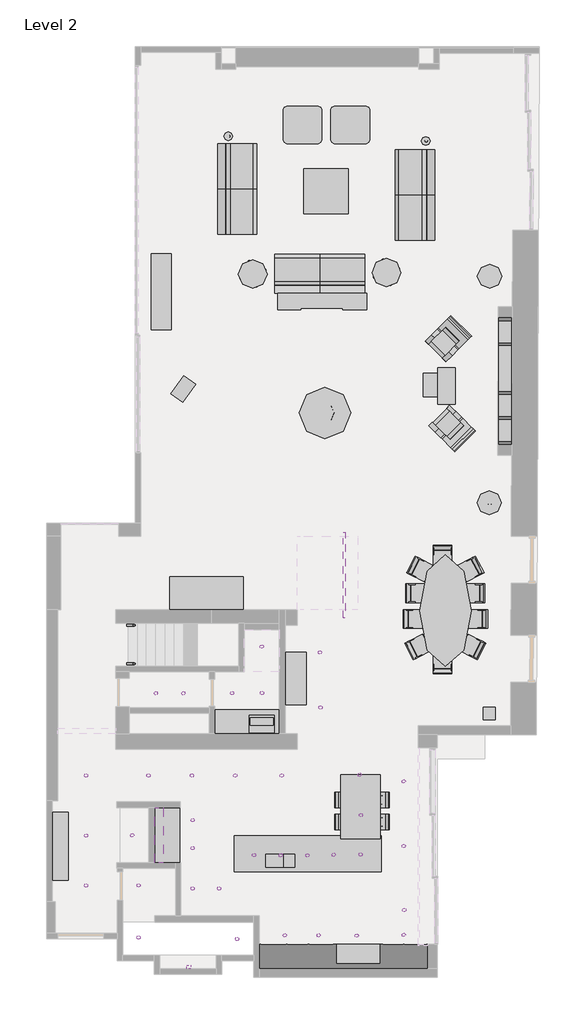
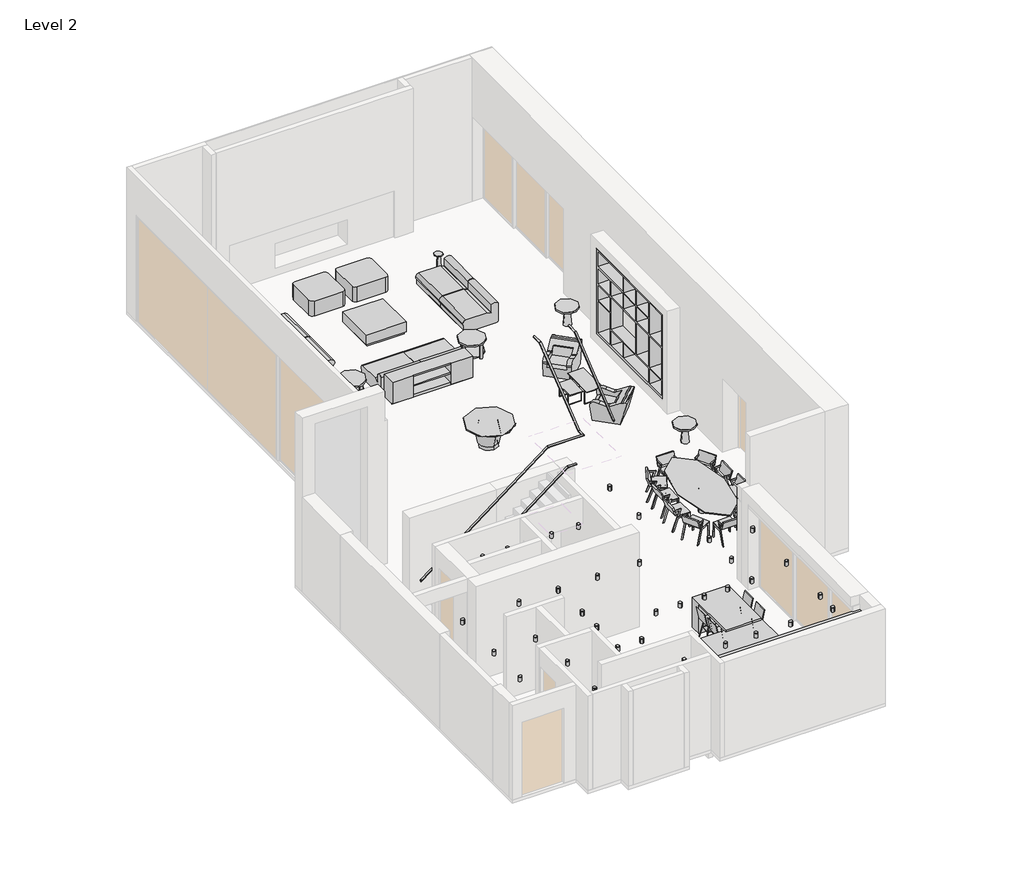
# One storey, part 3 of 3: 46 furniture elements, 37 light fixtures, 3 railings, 1 flow terminal.
"""IFC4 building model written with IfcOpenShell, lengths in millimetres."""

from ifc_helpers import new_model, si_unit, frame, origin, place, context, project, spatial, circle_curve, ellipse_curve, transform, mapped, element, save
from ifc_brep_helpers import plane_surface, cylinder_surface, advanced_brep
from components import sink_05_sink_05_83cbb9c2, cabinet_05_cabinet_05_b293a99e, cabinet_10_cabinet_10_716603c4, chair_1_chair_09_2_e52de524, chair_1_chair_09_2_60f36ab8, chair_1_chair_11_2_04599828, chair_1_chair_11_2_eeb455fd, chair_1_chair_12_2_918bc6ad, chair_4_chair_15_302be4ad, counter_counter_9db5bcc0, counter_02_counter_02_050aac90, furniture_08_furniture_08_d57b497b, furniture_09_furniture_09_7a5d8bf4, furniture_10_furniture_10_ddbf2e8e, furniture_11_furniture_11_f7b31755, furniture_15_furniture_15_eee239be, seating_03_seating_03_443b17d1, seating_04_seating_04_01323e9f, shelf_2_shelf_02_fa14b9a0, shelf_3_shelf_03_2a4fc885, table_1_table_15_2_961d6f65, table_25_table_09_f3128547, table_26_table_13_57efab66, table_27_table_14_e3094293, table_28_table_16_93e7e2a0, table_6_table_08_958b2a60, table_7_table_10_9ad1227e, table_9_table_11_e1c2e713, downlight_01_standard_4b9499b6, lighting_02_standard_022d6cc6, c1_2_437304bd, c1_2_bab826fe

model = new_model("IFC4")

# Units and contexts
model_context = context("Model", 3, world=origin())
ifc_project = project(units=[si_unit("LENGTHUNIT", "METRE", prefix="MILLI")], contexts=[model_context])

# Site, building, storey
site = spatial("IfcSite", under=ifc_project)
building = spatial("IfcBuilding", under=site)
storey = spatial("IfcBuildingStorey", under=building, Name="Level 2", Elevation=3400.0)

# Flow terminal
placement = place(None, origin())
sink_05_sink_05_shape = sink_05_sink_05_83cbb9c2(model_context)
element("IfcFlowTerminal", 1, ObjectType="Sink_05 : Sink_05", at=placement, inside=storey, context=model_context, shape_type="MappedRepresentation", body=[
    mapped(sink_05_sink_05_shape, transform((0.0, 0.0, 0.0), x_axis=(1.0, 0.0, 0.0), y_axis=(0.0, 1.0, 0.0), z_axis=(0.0, 0.0, 1.0))),
])

# Furniture
cabinet_05_cabinet_05_shape = cabinet_05_cabinet_05_b293a99e(model_context)
element("IfcFurniture", 2, ObjectType="Cabinet_05 : Cabinet_05", at=placement, inside=storey, context=model_context, shape_type="MappedRepresentation", body=[
    mapped(cabinet_05_cabinet_05_shape, transform((0.0, 0.0, 0.0), x_axis=(1.0, 0.0, 0.0), y_axis=(0.0, 1.0, 0.0), z_axis=(0.0, 0.0, 1.0))),
])
cabinet_10_cabinet_10_shape = cabinet_10_cabinet_10_716603c4(model_context)
element("IfcFurniture", 3, ObjectType="Cabinet_10 : Cabinet_10", at=placement, inside=storey, context=model_context, shape_type="MappedRepresentation", body=[
    mapped(cabinet_10_cabinet_10_shape, transform((0.0, 0.0, 0.0), x_axis=(1.0, 0.0, 0.0), y_axis=(0.0, 1.0, 0.0), z_axis=(0.0, 0.0, 1.0))),
])
chair_1_chair_09_2_shape = chair_1_chair_09_2_e52de524(model_context)
element("IfcFurniture", 4, ObjectType="Chair_1 : Chair_09 2", at=placement, inside=storey, context=model_context, shape_type="MappedRepresentation", body=[
    mapped(chair_1_chair_09_2_shape, transform((242.5150207, 2809.4438161, 3400.0), x_axis=(1.0, 0.0, 0.0), y_axis=(0.0, 1.0, 0.0), z_axis=(0.0, 0.0, 1.0))),
])
element("IfcFurniture", 5, ObjectType="Chair_1 : Chair_09 2", at=placement, inside=storey, context=model_context, shape_type="MappedRepresentation", body=[
    mapped(chair_1_chair_09_2_shape, transform((242.5150207, 3409.4438161, 3400.0), x_axis=(1.0, 0.0, 0.0), y_axis=(0.0, 1.0, 0.0), z_axis=(0.0, 0.0, 1.0))),
])
chair_1_chair_09_2_2_shape = chair_1_chair_09_2_60f36ab8(model_context)
element("IfcFurniture", 6, ObjectType="Chair_1 : Chair_09 2", at=placement, inside=storey, context=model_context, shape_type="MappedRepresentation", body=[
    mapped(chair_1_chair_09_2_2_shape, transform((1171.7976959, 2809.4438161, 3400.0), x_axis=(-1.0, 0.0, 0.0), y_axis=(0.0, -1.0, 0.0), z_axis=(0.0, 0.0, 1.0))),
])
element("IfcFurniture", 7, ObjectType="Chair_1 : Chair_09 2", at=placement, inside=storey, context=model_context, shape_type="MappedRepresentation", body=[
    mapped(chair_1_chair_09_2_2_shape, transform((1171.7976959, 3409.4438161, 3400.0), x_axis=(-1.0, 0.0, 0.0), y_axis=(0.0, -1.0, 0.0), z_axis=(0.0, 0.0, 1.0))),
])
chair_1_chair_11_2_shape = chair_1_chair_11_2_04599828(model_context)
element("IfcFurniture", 8, ObjectType="Chair_1 : Chair_11 2", at=placement, inside=storey, context=model_context, shape_type="MappedRepresentation", body=[
    mapped(chair_1_chair_11_2_shape, transform((2901.3974967, 10078.322173, 3400.0), x_axis=(1.0, 0.0, 0.0), y_axis=(0.0, 1.0, 0.0), z_axis=(0.0, 0.0, 1.0))),
])
element("IfcFurniture", 9, ObjectType="Chair_1 : Chair_11 2", at=placement, inside=storey, context=model_context, shape_type="MappedRepresentation", body=[
    mapped(chair_1_chair_11_2_shape, transform((3671.4873067, 9694.5413591, 3400.0), x_axis=(0.4694715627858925, -0.882947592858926, 0.0), y_axis=(0.882947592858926, 0.4694715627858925, 0.0), z_axis=(0.0, 0.0, 1.0))),
])
element("IfcFurniture", 10, ObjectType="Chair_1 : Chair_11 2", at=placement, inside=storey, context=model_context, shape_type="MappedRepresentation", body=[
    mapped(chair_1_chair_11_2_shape, transform((3784.4180215, 9040.7964698, 3400.0), x_axis=(0.0, -1.0, 0.0), y_axis=(1.0, 0.0, 0.0), z_axis=(0.0, 0.0, 1.0))),
])
element("IfcFurniture", 11, ObjectType="Chair_1 : Chair_11 2", at=placement, inside=storey, context=model_context, shape_type="MappedRepresentation", body=[
    mapped(chair_1_chair_11_2_shape, transform((3852.7818119, 8335.9339737, 3400.0), x_axis=(0.0, -1.0, 0.0), y_axis=(1.0, 0.0, 0.0), z_axis=(0.0, 0.0, 1.0))),
])
element("IfcFurniture", 12, ObjectType="Chair_1 : Chair_11 2", at=placement, inside=storey, context=model_context, shape_type="MappedRepresentation", body=[
    mapped(chair_1_chair_11_2_shape, transform((3723.262841, 7577.1655941, 3400.0), x_axis=(-0.45399049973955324, -0.8910065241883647, 0.0), y_axis=(0.8910065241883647, -0.45399049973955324, 0.0), z_axis=(0.0, 0.0, 1.0))),
])
chair_1_chair_11_2_2_shape = chair_1_chair_11_2_eeb455fd(model_context)
element("IfcFurniture", 13, ObjectType="Chair_1 : Chair_11 2", at=placement, inside=storey, context=model_context, shape_type="MappedRepresentation", body=[
    mapped(chair_1_chair_11_2_2_shape, transform((2901.3974967, 7115.9976129, 3400.0), x_axis=(1.0, 0.0, 0.0), y_axis=(0.0, 1.0, 0.0), z_axis=(0.0, 0.0, 1.0))),
])
element("IfcFurniture", 14, ObjectType="Chair_1 : Chair_11 2", at=placement, inside=storey, context=model_context, shape_type="MappedRepresentation", body=[
    mapped(chair_1_chair_11_2_2_shape, transform((2283.7813564, 9694.5413591, 3400.0), x_axis=(-0.4694715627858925, -0.882947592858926, 0.0), y_axis=(0.882947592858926, -0.4694715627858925, 0.0), z_axis=(0.0, 0.0, 1.0))),
])
element("IfcFurniture", 15, ObjectType="Chair_1 : Chair_11 2", at=placement, inside=storey, context=model_context, shape_type="MappedRepresentation", body=[
    mapped(chair_1_chair_11_2_2_shape, transform((2170.8506416, 9040.7964698, 3400.0), x_axis=(0.0, -1.0, 0.0), y_axis=(1.0, 0.0, 0.0), z_axis=(0.0, 0.0, 1.0))),
])
element("IfcFurniture", 16, ObjectType="Chair_1 : Chair_11 2", at=placement, inside=storey, context=model_context, shape_type="MappedRepresentation", body=[
    mapped(chair_1_chair_11_2_2_shape, transform((2102.4868512, 8335.9339737, 3400.0), x_axis=(0.0, -1.0, 0.0), y_axis=(1.0, 0.0, 0.0), z_axis=(0.0, 0.0, 1.0))),
])
element("IfcFurniture", 17, ObjectType="Chair_1 : Chair_11 2", at=placement, inside=storey, context=model_context, shape_type="MappedRepresentation", body=[
    mapped(chair_1_chair_11_2_2_shape, transform((2232.0058221, 7577.1655941, 3400.0), x_axis=(0.45399049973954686, -0.8910065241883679, 0.0), y_axis=(0.8910065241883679, 0.45399049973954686, 0.0), z_axis=(0.0, 0.0, 1.0))),
])
chair_1_chair_12_2_shape = chair_1_chair_12_2_918bc6ad(model_context)
element("IfcFurniture", 18, ObjectType="Chair_1 : Chair_12 2", at=placement, inside=storey, context=model_context, shape_type="MappedRepresentation", body=[
    mapped(chair_1_chair_12_2_shape, transform((3155.7371063, 13540.6590634, 3400.0), x_axis=(1.0, 0.0, 0.0), y_axis=(0.0, 1.0, 0.0), z_axis=(0.0, 0.0, 1.0))),
])
element("IfcFurniture", 19, ObjectType="Chair_1 : Chair_12 2", at=placement, inside=storey, context=model_context, shape_type="MappedRepresentation", body=[
    mapped(chair_1_chair_12_2_shape, transform((3046.2485154, 15963.3595513, 3400.0), x_axis=(0.0, 1.0, 0.0), y_axis=(-1.0, 0.0, 0.0), z_axis=(0.0, 0.0, 1.0))),
])
chair_4_chair_15_shape = chair_4_chair_15_302be4ad(model_context)
element("IfcFurniture", 20, ObjectType="Chair_4 : Chair_15", at=placement, inside=storey, context=model_context, shape_type="MappedRepresentation", body=[
    mapped(chair_4_chair_15_shape, transform((0.0, 0.0, 0.0), x_axis=(1.0, 0.0, 0.0), y_axis=(0.0, 1.0, 0.0), z_axis=(0.0, 0.0, 1.0))),
])
counter_counter_shape = counter_counter_9db5bcc0(model_context)
element("IfcFurniture", 21, ObjectType="Counter : Counter", at=placement, inside=storey, context=model_context, shape_type="MappedRepresentation", body=[
    mapped(counter_counter_shape, transform((0.0, 0.0, 0.0), x_axis=(1.0, 0.0, 0.0), y_axis=(0.0, 1.0, 0.0), z_axis=(0.0, 0.0, 1.0))),
])
counter_02_counter_02_shape = counter_02_counter_02_050aac90(model_context)
element("IfcFurniture", 22, ObjectType="Counter_02 : Counter_02", at=placement, inside=storey, context=model_context, shape_type="MappedRepresentation", body=[
    mapped(counter_02_counter_02_shape, transform((0.0, 0.0, 0.0), x_axis=(1.0, 0.0, 0.0), y_axis=(0.0, 1.0, 0.0), z_axis=(0.0, 0.0, 1.0))),
])
furniture_08_furniture_08_shape = furniture_08_furniture_08_d57b497b(model_context)
element("IfcFurniture", 23, ObjectType="Furniture_08 : Furniture_08", at=placement, inside=storey, context=model_context, shape_type="MappedRepresentation", body=[
    mapped(furniture_08_furniture_08_shape, transform((0.0, 0.0, 0.0), x_axis=(1.0, 0.0, 0.0), y_axis=(0.0, 1.0, 0.0), z_axis=(0.0, 0.0, 1.0))),
])
furniture_09_furniture_09_shape = furniture_09_furniture_09_7a5d8bf4(model_context)
element("IfcFurniture", 24, ObjectType="Furniture_09 : Furniture_09", at=placement, inside=storey, context=model_context, shape_type="MappedRepresentation", body=[
    mapped(furniture_09_furniture_09_shape, transform((-2265.8966773, 17731.1533112, 3400.0), x_axis=(1.0, 0.0, 0.0), y_axis=(0.0, 1.0, 0.0), z_axis=(0.0, 0.0, 1.0))),
])
element("IfcFurniture", 25, ObjectType="Furniture_09 : Furniture_09", at=placement, inside=storey, context=model_context, shape_type="MappedRepresentation", body=[
    mapped(furniture_09_furniture_09_shape, transform((1374.1033227, 17771.1533112, 3400.0), x_axis=(1.0, 0.0, 0.0), y_axis=(0.0, 1.0, 0.0), z_axis=(0.0, 0.0, 1.0))),
])
furniture_10_furniture_10_shape = furniture_10_furniture_10_ddbf2e8e(model_context)
element("IfcFurniture", 26, ObjectType="Furniture_10 : Furniture_10", at=placement, inside=storey, context=model_context, shape_type="MappedRepresentation", body=[
    mapped(furniture_10_furniture_10_shape, transform((0.0, 0.0, 0.0), x_axis=(1.0, 0.0, 0.0), y_axis=(0.0, 1.0, 0.0), z_axis=(0.0, 0.0, 1.0))),
])
furniture_11_furniture_11_shape = furniture_11_furniture_11_f7b31755(model_context)
element("IfcFurniture", 27, ObjectType="Furniture_11 : Furniture_11", at=placement, inside=storey, context=model_context, shape_type="MappedRepresentation", body=[
    mapped(furniture_11_furniture_11_shape, transform((0.0, 0.0, 0.0), x_axis=(1.0, 0.0, 0.0), y_axis=(0.0, 1.0, 0.0), z_axis=(0.0, 0.0, 1.0))),
])
furniture_15_furniture_15_shape = furniture_15_furniture_15_eee239be(model_context)
element("IfcFurniture", 28, ObjectType="Furniture_15 : Furniture_15", at=placement, inside=storey, context=model_context, shape_type="MappedRepresentation", body=[
    mapped(furniture_15_furniture_15_shape, transform((2442.8847135, 21353.7249649, 3400.0), x_axis=(1.0, 0.0, 0.0), y_axis=(0.0, 1.0, 0.0), z_axis=(0.0, 0.0, 1.0))),
])
element("IfcFurniture", 29, ObjectType="Furniture_15 : Furniture_15", at=placement, inside=storey, context=model_context, shape_type="MappedRepresentation", body=[
    mapped(furniture_15_furniture_15_shape, transform((-2930.2220611, 21481.704859, 3400.0), x_axis=(1.0, 0.0, 0.0), y_axis=(0.0, 1.0, 0.0), z_axis=(0.0, 0.0, 1.0))),
])
seating_03_seating_03_shape = seating_03_seating_03_443b17d1(model_context)
element("IfcFurniture", 30, ObjectType="Seating_03 : Seating_03", at=placement, inside=storey, context=model_context, shape_type="MappedRepresentation", body=[
    mapped(seating_03_seating_03_shape, transform((0.0, 0.0, 0.0), x_axis=(1.0, 0.0, 0.0), y_axis=(0.0, 1.0, 0.0), z_axis=(0.0, 0.0, 1.0))),
])
seating_04_seating_04_shape = seating_04_seating_04_01323e9f(model_context)
element("IfcFurniture", 31, ObjectType="Seating_04 : Seating_04", at=placement, inside=storey, context=model_context, shape_type="MappedRepresentation", body=[
    mapped(seating_04_seating_04_shape, transform((-2685.4437635, 19425.7003798, 3400.0), x_axis=(1.0, 0.0, 0.0), y_axis=(0.0, 1.0, 0.0), z_axis=(0.0, 0.0, 1.0))),
])
element("IfcFurniture", 32, ObjectType="Seating_04 : Seating_04", at=placement, inside=storey, context=model_context, shape_type="MappedRepresentation", body=[
    mapped(seating_04_seating_04_shape, transform((-2685.4437635, 20663.6293837, 3400.0), x_axis=(1.0, 0.0, 0.0), y_axis=(0.0, 1.0, 0.0), z_axis=(0.0, 0.0, 1.0))),
])
element("IfcFurniture", 33, ObjectType="Seating_04 : Seating_04", at=placement, inside=storey, context=model_context, shape_type="MappedRepresentation", body=[
    mapped(seating_04_seating_04_shape, transform((2150.8579389, 19260.7003798, 3400.0), x_axis=(-1.0, 0.0, 0.0), y_axis=(0.0, -1.0, 0.0), z_axis=(0.0, 0.0, 1.0))),
])
element("IfcFurniture", 34, ObjectType="Seating_04 : Seating_04", at=placement, inside=storey, context=model_context, shape_type="MappedRepresentation", body=[
    mapped(seating_04_seating_04_shape, transform((2150.8579389, 20498.6293837, 3400.0), x_axis=(-1.0, 0.0, 0.0), y_axis=(0.0, -1.0, 0.0), z_axis=(0.0, 0.0, 1.0))),
])
element("IfcFurniture", 35, ObjectType="Seating_04 : Seating_04", at=placement, inside=storey, context=model_context, shape_type="MappedRepresentation", body=[
    mapped(seating_04_seating_04_shape, transform((-1057.8626445, 17739.9735492, 3400.0), x_axis=(0.0, 1.0, 0.0), y_axis=(-1.0, 0.0, 0.0), z_axis=(0.0, 0.0, 1.0))),
])
element("IfcFurniture", 36, ObjectType="Seating_04 : Seating_04", at=placement, inside=storey, context=model_context, shape_type="MappedRepresentation", body=[
    mapped(seating_04_seating_04_shape, transform((180.0663595, 17739.9735492, 3400.0), x_axis=(0.0, 1.0, 0.0), y_axis=(-1.0, 0.0, 0.0), z_axis=(0.0, 0.0, 1.0))),
])
shelf_2_shelf_02_shape = shelf_2_shelf_02_fa14b9a0(model_context)
element("IfcFurniture", 37, ObjectType="Shelf_2 : Shelf_02", at=placement, inside=storey, context=model_context, shape_type="MappedRepresentation", body=[
    mapped(shelf_2_shelf_02_shape, transform((0.0, 0.0, 0.0), x_axis=(1.0, 0.0, 0.0), y_axis=(0.0, 1.0, 0.0), z_axis=(0.0, 0.0, 1.0))),
])
shelf_3_shelf_03_shape = shelf_3_shelf_03_2a4fc885(model_context)
element("IfcFurniture", 38, ObjectType="Shelf_3 : Shelf_03", at=placement, inside=storey, context=model_context, shape_type="MappedRepresentation", body=[
    mapped(shelf_3_shelf_03_shape, transform((0.0, 0.0, 0.0), x_axis=(1.0, 0.0, 0.0), y_axis=(0.0, 1.0, 0.0), z_axis=(0.0, 0.0, 1.0))),
])
table_1_table_15_2_shape = table_1_table_15_2_961d6f65(model_context)
element("IfcFurniture", 39, ObjectType="Table_1 : Table_15 2", at=placement, inside=storey, context=model_context, shape_type="MappedRepresentation", body=[
    mapped(table_1_table_15_2_shape, transform((4172.3702173, 11506.4594977, 3400.0), x_axis=(1.0, 0.0, 0.0), y_axis=(0.0, 1.0, 0.0), z_axis=(0.0, 0.0, 1.0))),
])
element("IfcFurniture", 40, ObjectType="Table_1 : Table_15 2", at=placement, inside=storey, context=model_context, shape_type="MappedRepresentation", body=[
    mapped(table_1_table_15_2_shape, transform((4182.3702173, 17666.4594977, 3400.0), x_axis=(1.0, 0.0, 0.0), y_axis=(0.0, 1.0, 0.0), z_axis=(0.0, 0.0, 1.0))),
])
table_25_table_09_shape = table_25_table_09_f3128547(model_context)
element("IfcFurniture", 41, ObjectType="Table_25 : Table_09", at=placement, inside=storey, context=model_context, shape_type="MappedRepresentation", body=[
    mapped(table_25_table_09_shape, transform((0.0, 0.0, 0.0), x_axis=(1.0, 0.0, 0.0), y_axis=(0.0, 1.0, 0.0), z_axis=(0.0, 0.0, 1.0))),
])
table_26_table_13_shape = table_26_table_13_57efab66(model_context)
element("IfcFurniture", 42, ObjectType="Table_26 : Table_13", at=placement, inside=storey, context=model_context, shape_type="MappedRepresentation", body=[
    mapped(table_26_table_13_shape, transform((0.0, 0.0, 0.0), x_axis=(1.0, 0.0, 0.0), y_axis=(0.0, 1.0, 0.0), z_axis=(0.0, 0.0, 1.0))),
])
table_27_table_14_shape = table_27_table_14_e3094293(model_context)
element("IfcFurniture", 43, ObjectType="Table_27 : Table_14", at=placement, inside=storey, context=model_context, shape_type="MappedRepresentation", body=[
    mapped(table_27_table_14_shape, transform((0.0, 0.0, 0.0), x_axis=(1.0, 0.0, 0.0), y_axis=(0.0, 1.0, 0.0), z_axis=(0.0, 0.0, 1.0))),
])
table_28_table_16_shape = table_28_table_16_93e7e2a0(model_context)
element("IfcFurniture", 44, ObjectType="Table_28 : Table_16", at=placement, inside=storey, context=model_context, shape_type="MappedRepresentation", body=[
    mapped(table_28_table_16_shape, transform((0.0, 0.0, 0.0), x_axis=(1.0, 0.0, 0.0), y_axis=(0.0, 1.0, 0.0), z_axis=(0.0, 0.0, 1.0))),
])
table_6_table_08_shape = table_6_table_08_958b2a60(model_context)
element("IfcFurniture", 45, ObjectType="Table_6 : Table_08", at=placement, inside=storey, context=model_context, shape_type="MappedRepresentation", body=[
    mapped(table_6_table_08_shape, transform((0.0, 0.0, 0.0), x_axis=(1.0, 0.0, 0.0), y_axis=(0.0, 1.0, 0.0), z_axis=(0.0, 0.0, 1.0))),
])
table_7_table_10_shape = table_7_table_10_9ad1227e(model_context)
element("IfcFurniture", 46, ObjectType="Table_7 : Table_10", at=placement, inside=storey, context=model_context, shape_type="MappedRepresentation", body=[
    mapped(table_7_table_10_shape, transform((0.0, 0.0, 0.0), x_axis=(1.0, 0.0, 0.0), y_axis=(0.0, 1.0, 0.0), z_axis=(0.0, 0.0, 1.0))),
])
table_9_table_11_shape = table_9_table_11_e1c2e713(model_context)
element("IfcFurniture", 47, ObjectType="Table_9 : Table_11", at=placement, inside=storey, context=model_context, shape_type="MappedRepresentation", body=[
    mapped(table_9_table_11_shape, transform((0.0, 0.0, 0.0), x_axis=(1.0, 0.0, 0.0), y_axis=(0.0, 1.0, 0.0), z_axis=(0.0, 0.0, 1.0))),
])

# Light fixtures
downlight_01_standard_shape = downlight_01_standard_4b9499b6(model_context)
element("IfcLightFixture", 48, ObjectType="Downlight _01 : Standard", at=placement, inside=storey, context=model_context, shape_type="MappedRepresentation", body=[
    mapped(downlight_01_standard_shape, transform((-2693.0019919, -374.1212542, 3511.6), x_axis=(1.0, 0.0, 0.0), y_axis=(0.0, 1.0, 0.0), z_axis=(0.0, 0.0, 1.0))),
])
element("IfcLightFixture", 49, ObjectType="Downlight _01 : Standard", at=placement, inside=storey, context=model_context, shape_type="MappedRepresentation", body=[
    mapped(downlight_01_standard_shape, transform((-5373.0019919, -334.1212542, 3511.6), x_axis=(1.0, 0.0, 0.0), y_axis=(0.0, 1.0, 0.0), z_axis=(0.0, 0.0, 1.0))),
])
element("IfcLightFixture", 50, ObjectType="Downlight _01 : Standard", at=placement, inside=storey, context=model_context, shape_type="MappedRepresentation", body=[
    mapped(downlight_01_standard_shape, transform((-5373.0019919, 1085.8787458, 3511.6), x_axis=(1.0, 0.0, 0.0), y_axis=(0.0, 1.0, 0.0), z_axis=(0.0, 0.0, 1.0))),
])
element("IfcLightFixture", 51, ObjectType="Downlight _01 : Standard", at=placement, inside=storey, context=model_context, shape_type="MappedRepresentation", body=[
    mapped(downlight_01_standard_shape, transform((-6803.0019919, 1080.8787458, 3511.6), x_axis=(1.0, 0.0, 0.0), y_axis=(0.0, 1.0, 0.0), z_axis=(0.0, 0.0, 1.0))),
])
element("IfcLightFixture", 52, ObjectType="Downlight _01 : Standard", at=placement, inside=storey, context=model_context, shape_type="MappedRepresentation", body=[
    mapped(downlight_01_standard_shape, transform((-6803.0019919, 2440.8787458, 3511.6), x_axis=(1.0, 0.0, 0.0), y_axis=(0.0, 1.0, 0.0), z_axis=(0.0, 0.0, 1.0))),
])
element("IfcLightFixture", 53, ObjectType="Downlight _01 : Standard", at=placement, inside=storey, context=model_context, shape_type="MappedRepresentation", body=[
    mapped(downlight_01_standard_shape, transform((-6803.0019919, 4075.8787458, 3511.6), x_axis=(1.0, 0.0, 0.0), y_axis=(0.0, 1.0, 0.0), z_axis=(0.0, 0.0, 1.0))),
])
element("IfcLightFixture", 54, ObjectType="Downlight _01 : Standard", at=placement, inside=storey, context=model_context, shape_type="MappedRepresentation", body=[
    mapped(downlight_01_standard_shape, transform((-5103.0019919, 4075.8787458, 3511.6), x_axis=(1.0, 0.0, 0.0), y_axis=(0.0, 1.0, 0.0), z_axis=(0.0, 0.0, 1.0))),
])
element("IfcLightFixture", 55, ObjectType="Downlight _01 : Standard", at=placement, inside=storey, context=model_context, shape_type="MappedRepresentation", body=[
    mapped(downlight_01_standard_shape, transform((-3923.0019919, 4075.8787458, 3511.6), x_axis=(1.0, 0.0, 0.0), y_axis=(0.0, 1.0, 0.0), z_axis=(0.0, 0.0, 1.0))),
])
element("IfcLightFixture", 56, ObjectType="Downlight _01 : Standard", at=placement, inside=storey, context=model_context, shape_type="MappedRepresentation", body=[
    mapped(downlight_01_standard_shape, transform((-2743.0019919, 4075.8787458, 3511.6), x_axis=(1.0, 0.0, 0.0), y_axis=(0.0, 1.0, 0.0), z_axis=(0.0, 0.0, 1.0))),
])
element("IfcLightFixture", 57, ObjectType="Downlight _01 : Standard", at=placement, inside=storey, context=model_context, shape_type="MappedRepresentation", body=[
    mapped(downlight_01_standard_shape, transform((-1478.0019919, 4075.8787458, 3511.6), x_axis=(1.0, 0.0, 0.0), y_axis=(0.0, 1.0, 0.0), z_axis=(0.0, 0.0, 1.0))),
])
element("IfcLightFixture", 58, ObjectType="Downlight _01 : Standard", at=placement, inside=storey, context=model_context, shape_type="MappedRepresentation", body=[
    mapped(downlight_01_standard_shape, transform((-3903.0019919, 2860.8787458, 3511.6), x_axis=(1.0, 0.0, 0.0), y_axis=(0.0, 1.0, 0.0), z_axis=(0.0, 0.0, 1.0))),
])
element("IfcLightFixture", 59, ObjectType="Downlight _01 : Standard", at=placement, inside=storey, context=model_context, shape_type="MappedRepresentation", body=[
    mapped(downlight_01_standard_shape, transform((-3903.0019919, 2100.8787458, 3511.6), x_axis=(1.0, 0.0, 0.0), y_axis=(0.0, 1.0, 0.0), z_axis=(0.0, 0.0, 1.0))),
])
element("IfcLightFixture", 60, ObjectType="Downlight _01 : Standard", at=placement, inside=storey, context=model_context, shape_type="MappedRepresentation", body=[
    mapped(downlight_01_standard_shape, transform((-3903.0019919, 1000.8787458, 3511.6), x_axis=(1.0, 0.0, 0.0), y_axis=(0.0, 1.0, 0.0), z_axis=(0.0, 0.0, 1.0))),
])
element("IfcLightFixture", 61, ObjectType="Downlight _01 : Standard", at=placement, inside=storey, context=model_context, shape_type="MappedRepresentation", body=[
    mapped(downlight_01_standard_shape, transform((-3183.0019919, 1000.8787458, 3511.6), x_axis=(1.0, 0.0, 0.0), y_axis=(0.0, 1.0, 0.0), z_axis=(0.0, 0.0, 1.0))),
])
element("IfcLightFixture", 62, ObjectType="Downlight _01 : Standard", at=placement, inside=storey, context=model_context, shape_type="MappedRepresentation", body=[
    mapped(downlight_01_standard_shape, transform((-1393.0019919, -274.1212542, 3511.6), x_axis=(1.0, 0.0, 0.0), y_axis=(0.0, 1.0, 0.0), z_axis=(0.0, 0.0, 1.0))),
])
element("IfcLightFixture", 63, ObjectType="Downlight _01 : Standard", at=placement, inside=storey, context=model_context, shape_type="MappedRepresentation", body=[
    mapped(downlight_01_standard_shape, transform((-473.0019919, -274.1212542, 3511.6), x_axis=(1.0, 0.0, 0.0), y_axis=(0.0, 1.0, 0.0), z_axis=(0.0, 0.0, 1.0))),
])
element("IfcLightFixture", 64, ObjectType="Downlight _01 : Standard", at=placement, inside=storey, context=model_context, shape_type="MappedRepresentation", body=[
    mapped(downlight_01_standard_shape, transform((563.0901674, -281.7032002, 3511.6), x_axis=(1.0, 0.0, 0.0), y_axis=(0.0, 1.0, 0.0), z_axis=(0.0, 0.0, 1.0))),
])
element("IfcLightFixture", 65, ObjectType="Downlight _01 : Standard", at=placement, inside=storey, context=model_context, shape_type="MappedRepresentation", body=[
    mapped(downlight_01_standard_shape, transform((1843.0901674, -261.1735117, 3511.6), x_axis=(1.0, 0.0, 0.0), y_axis=(0.0, 1.0, 0.0), z_axis=(0.0, 0.0, 1.0))),
])
element("IfcLightFixture", 66, ObjectType="Downlight _01 : Standard", at=placement, inside=storey, context=model_context, shape_type="MappedRepresentation", body=[
    mapped(downlight_01_standard_shape, transform((1858.0901674, 413.2967998, 3511.6), x_axis=(1.0, 0.0, 0.0), y_axis=(0.0, 1.0, 0.0), z_axis=(0.0, 0.0, 1.0))),
])
element("IfcLightFixture", 67, ObjectType="Downlight _01 : Standard", at=placement, inside=storey, context=model_context, shape_type="MappedRepresentation", body=[
    mapped(downlight_01_standard_shape, transform((1843.0901674, 2158.2967998, 3511.6), x_axis=(1.0, 0.0, 0.0), y_axis=(0.0, 1.0, 0.0), z_axis=(0.0, 0.0, 1.0))),
])
element("IfcLightFixture", 68, ObjectType="Downlight _01 : Standard", at=placement, inside=storey, context=model_context, shape_type="MappedRepresentation", body=[
    mapped(downlight_01_standard_shape, transform((1843.0901674, 3918.2967998, 3511.6), x_axis=(1.0, 0.0, 0.0), y_axis=(0.0, 1.0, 0.0), z_axis=(0.0, 0.0, 1.0))),
])
element("IfcLightFixture", 69, ObjectType="Downlight _01 : Standard", at=placement, inside=storey, context=model_context, shape_type="MappedRepresentation", body=[
    mapped(downlight_01_standard_shape, transform((-422.6989418, 5928.2374199, 3511.6), x_axis=(1.0, 0.0, 0.0), y_axis=(0.0, 1.0, 0.0), z_axis=(0.0, 0.0, 1.0))),
])
element("IfcLightFixture", 70, ObjectType="Downlight _01 : Standard", at=placement, inside=storey, context=model_context, shape_type="MappedRepresentation", body=[
    mapped(downlight_01_standard_shape, transform((-437.6989418, 7428.2374199, 3511.6), x_axis=(1.0, 0.0, 0.0), y_axis=(0.0, 1.0, 0.0), z_axis=(0.0, 0.0, 1.0))),
])
element("IfcLightFixture", 71, ObjectType="Downlight _01 : Standard", at=placement, inside=storey, context=model_context, shape_type="MappedRepresentation", body=[
    mapped(downlight_01_standard_shape, transform((643.0901674, 4098.2967998, 3511.6), x_axis=(1.0, 0.0, 0.0), y_axis=(0.0, 1.0, 0.0), z_axis=(0.0, 0.0, 1.0))),
])
element("IfcLightFixture", 72, ObjectType="Downlight _01 : Standard", at=placement, inside=storey, context=model_context, shape_type="MappedRepresentation", body=[
    mapped(downlight_01_standard_shape, transform((669.3095038, 1926.8544253, 3511.6), x_axis=(1.0, 0.0, 0.0), y_axis=(0.0, 1.0, 0.0), z_axis=(0.0, 0.0, 1.0))),
])
element("IfcLightFixture", 73, ObjectType="Downlight _01 : Standard", at=placement, inside=storey, context=model_context, shape_type="MappedRepresentation", body=[
    mapped(downlight_01_standard_shape, transform((-64.1791014, 1919.4284705, 3511.6), x_axis=(1.0, 0.0, 0.0), y_axis=(0.0, 1.0, 0.0), z_axis=(0.0, 0.0, 1.0))),
])
element("IfcLightFixture", 74, ObjectType="Downlight _01 : Standard", at=placement, inside=storey, context=model_context, shape_type="MappedRepresentation", body=[
    mapped(downlight_01_standard_shape, transform((-777.9918049, 1901.0074975, 3511.6), x_axis=(1.0, 0.0, 0.0), y_axis=(0.0, 1.0, 0.0), z_axis=(0.0, 0.0, 1.0))),
])
element("IfcLightFixture", 75, ObjectType="Downlight _01 : Standard", at=placement, inside=storey, context=model_context, shape_type="MappedRepresentation", body=[
    mapped(downlight_01_standard_shape, transform((-1503.3176164, 1905.6127408, 3511.6), x_axis=(1.0, 0.0, 0.0), y_axis=(0.0, 1.0, 0.0), z_axis=(0.0, 0.0, 1.0))),
])
element("IfcLightFixture", 76, ObjectType="Downlight _01 : Standard", at=placement, inside=storey, context=model_context, shape_type="MappedRepresentation", body=[
    mapped(downlight_01_standard_shape, transform((-2231.9691044, 1910.3429732, 3511.6), x_axis=(1.0, 0.0, 0.0), y_axis=(0.0, 1.0, 0.0), z_axis=(0.0, 0.0, 1.0))),
])
element("IfcLightFixture", 77, ObjectType="Downlight _01 : Standard", at=placement, inside=storey, context=model_context, shape_type="MappedRepresentation", body=[
    mapped(downlight_01_standard_shape, transform((-4903.4665916, 6318.2341472, 3511.6), x_axis=(1.0, 0.0, 0.0), y_axis=(0.0, 1.0, 0.0), z_axis=(0.0, 0.0, 1.0))),
])
element("IfcLightFixture", 78, ObjectType="Downlight _01 : Standard", at=placement, inside=storey, context=model_context, shape_type="MappedRepresentation", body=[
    mapped(downlight_01_standard_shape, transform((-2020.5689108, 7586.6721928, 3099.0058339), x_axis=(1.0, 0.0, 0.0), y_axis=(0.0, 1.0, 0.0), z_axis=(0.0, 0.0, 1.0))),
])
element("IfcLightFixture", 79, ObjectType="Downlight _01 : Standard", at=placement, inside=storey, context=model_context, shape_type="MappedRepresentation", body=[
    mapped(downlight_01_standard_shape, transform((-5548.8941303, 2448.8087879, 3511.6), x_axis=(1.0, 0.0, 0.0), y_axis=(0.0, 1.0, 0.0), z_axis=(0.0, 0.0, 1.0))),
])
element("IfcLightFixture", 80, ObjectType="Downlight _01 : Standard", at=placement, inside=storey, context=model_context, shape_type="MappedRepresentation", body=[
    mapped(downlight_01_standard_shape, transform((677.8167574, 2998.8799922, 3511.6), x_axis=(1.0, 0.0, 0.0), y_axis=(0.0, 1.0, 0.0), z_axis=(0.0, 0.0, 1.0))),
])
element("IfcLightFixture", 81, ObjectType="Downlight _01 : Standard", at=placement, inside=storey, context=model_context, shape_type="MappedRepresentation", body=[
    mapped(downlight_01_standard_shape, transform((-4153.8727924, 6314.9100146, 3511.6), x_axis=(1.0, 0.0, 0.0), y_axis=(0.0, 1.0, 0.0), z_axis=(0.0, 0.0, 1.0))),
])
element("IfcLightFixture", 82, ObjectType="Downlight _01 : Standard", at=placement, inside=storey, context=model_context, shape_type="MappedRepresentation", body=[
    mapped(downlight_01_standard_shape, transform((-2828.2330287, 6320.1377899, 3511.6), x_axis=(1.0, 0.0, 0.0), y_axis=(0.0, 1.0, 0.0), z_axis=(0.0, 0.0, 1.0))),
])
element("IfcLightFixture", 83, ObjectType="Downlight _01 : Standard", at=placement, inside=storey, context=model_context, shape_type="MappedRepresentation", body=[
    mapped(downlight_01_standard_shape, transform((-2013.7025436, 6323.6202845, 3511.6), x_axis=(1.0, 0.0, 0.0), y_axis=(0.0, 1.0, 0.0), z_axis=(0.0, 0.0, 1.0))),
])
lighting_02_standard_shape = lighting_02_standard_022d6cc6(model_context)
element("IfcLightFixture", 84, ObjectType="Lighting_02 : Standard", at=placement, inside=storey, context=model_context, shape_type="MappedRepresentation", body=[
    mapped(lighting_02_standard_shape, transform((-4010.9784795, -1176.79277, 5700.0), x_axis=(1.0, 0.0, 0.0), y_axis=(0.0, 1.0, 0.0), z_axis=(0.0, 0.0, 1.0))),
])

# Railings
c1_2_shape = c1_2_437304bd(model_context)
element("IfcRailing", 85, ObjectType="C1 2", at=placement, inside=storey, context=model_context, shape_type="MappedRepresentation", body=[
    mapped(c1_2_shape, transform((0.0, 0.0, 0.0), x_axis=(1.0, 0.0, 0.0), y_axis=(0.0, 1.0, 0.0), z_axis=(0.0, 0.0, 1.0))),
])
c1_2_2_shape = c1_2_bab826fe(model_context)
element("IfcRailing", 86, ObjectType="C1 2", at=placement, inside=storey, context=model_context, shape_type="MappedRepresentation", body=[
    mapped(c1_2_2_shape, transform((0.0, 0.0, 0.0), x_axis=(1.0, 0.0, 0.0), y_axis=(0.0, 1.0, 0.0), z_axis=(0.0, 0.0, 1.0))),
])
element("IfcRailing", 87, ObjectType="C1 3", at=placement, inside=storey, context=model_context, shape_type="AdvancedBrep", body=[
    advanced_brep(
    [(252.4533333, 8365.5978406, 7357.9843788), (202.4533333, 8365.5978406, 7357.9843788), (252.4533333, 10374.367367, 8965.0), (202.4533333, 10374.367367, 8965.0), (252.4533333, 10705.5978406, 8965.0), (202.4533333, 10705.5978406, 8965.0)],
    [
        (0, 1, ellipse_curve(frame((227.4533333, 8365.5978406, 7357.9843788), z_axis=(0.0, -1.0, 0.0), x_axis=(0.0, 0.0, -1.0)), 32.0156212, 25.0)),
        (1, 0, ellipse_curve(frame((227.4533333, 8365.5978406, 7357.9843788), z_axis=(0.0, -1.0, 0.0), x_axis=(0.0, 0.0, -1.0)), 32.0156212, 25.0)),
        (0, 2),
        (2, 3, ellipse_curve(frame((227.4533333, 10374.367367, 8965.0), z_axis=(0.0, -0.9436283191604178, -0.33100694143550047), x_axis=(0.0, 0.33100694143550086, -0.9436283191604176)), 26.4934821, 25.0)),
        (3, 1),
        (3, 2, ellipse_curve(frame((227.4533333, 10374.367367, 8965.0), z_axis=(0.0, -0.9436283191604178, -0.33100694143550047), x_axis=(0.0, 0.33100694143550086, -0.9436283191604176)), 26.4934821, 25.0)),
        (4, 5, circle_curve(frame((227.4533333, 10705.5978406, 8965.0), z_axis=(0.0, 1.0, 0.0), x_axis=(-1.0, 0.0, 0.0)), 25.0)),
        (5, 4, circle_curve(frame((227.4533333, 10705.5978406, 8965.0), z_axis=(0.0, 1.0, 0.0), x_axis=(-1.0, 0.0, 0.0)), 25.0)),
        (2, 4),
        (5, 3),
    ],
    [
        plane_surface(frame((227.4533333, 8365.5978406, 7390.0), z_axis=(0.0, -1.0, 0.0), x_axis=(0.0, 0.0, 1.0))),
        cylinder_surface(frame((227.4533333, 8381.2152168, 7370.4782798), z_axis=(0.0, -0.7808688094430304, -0.6246950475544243), x_axis=(-1.0, 0.0, 0.0)), 25.0),
        plane_surface(frame((227.4533333, 10705.5978406, 8990.0), z_axis=(0.0, 1.0, 0.0), x_axis=(0.0, 0.0, 1.0))),
        cylinder_surface(frame((227.4533333, 10365.5978406, 8965.0), z_axis=(0.0, -1.0, 0.0), x_axis=(-1.0, 0.0, 0.0)), 25.0),
    ],
    [
        (0, [[1, 2]]),
        (1, [[-1, 3, 4, 5]]),
        (1, [[-2, -5, 6, -3]]),
        (2, [[7, 8]]),
        (3, [[-4, 9, -8, 10]]),
        (3, [[-6, -10, -7, -9]]),
    ],
),
])

save(model, "model.ifc")
